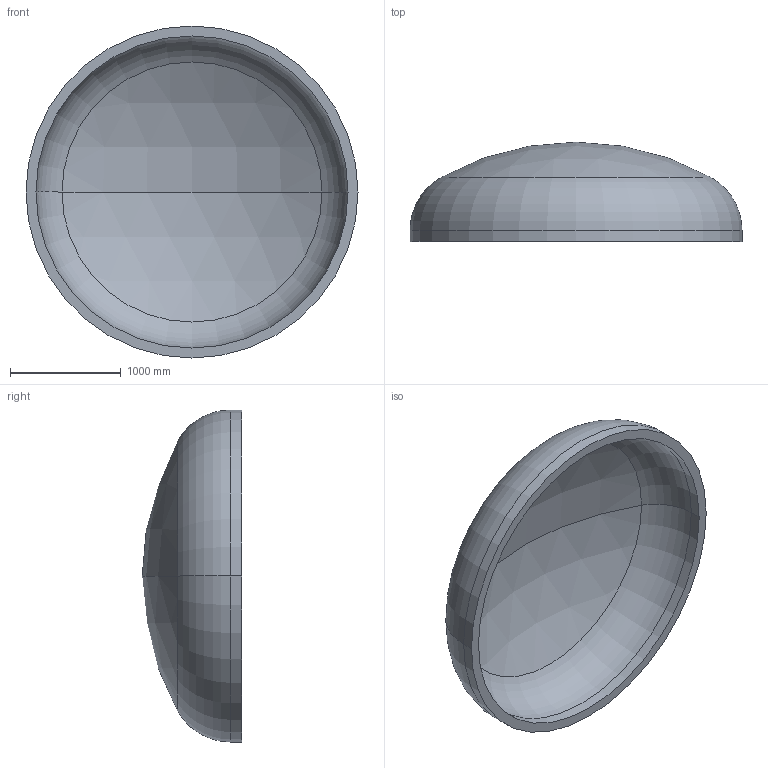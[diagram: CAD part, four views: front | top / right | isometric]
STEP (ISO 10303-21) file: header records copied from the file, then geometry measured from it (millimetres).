
FILE_DESCRIPTION (( 'STEP AP203' ), '1' );
FILE_NAME ('DIN 28013 Korbbogenform_-_Boden DIN 28013 - 3000 x 100 - I - s=90.step', '2016-07-01T18:03:56', ( '' ), ( '' ), 'SwSTEP 2.0', 'SolidWorks 2013', '' );
FILE_SCHEMA (( 'CONFIG_CONTROL_DESIGN' ));
Length unit declared in the file: millimetre
Products named in the file (1): DIN 28013 Korbbogenform_-_Boden DIN 28013 - 3000 x 100 - I - s=90
Bounding box: 3000 x 898.52 x 3000 mm (x, y, z)
Volume: 928767767.1 mm3; surface area: 21479024.7 mm2
Topology: 1 solids, 1 shells, 13 faces, 24 edges, 14 vertices
Faces by surface type: torus 4, cylinder 4, sphere 4, plane 1
Entity records: 407 total; most frequent: DIRECTION 72, CARTESIAN_POINT 52, ORIENTED_EDGE 48, AXIS2_PLACEMENT_3D 34, EDGE_CURVE 24, CIRCLE 20, EDGE_LOOP 14, VERTEX_POINT 14
